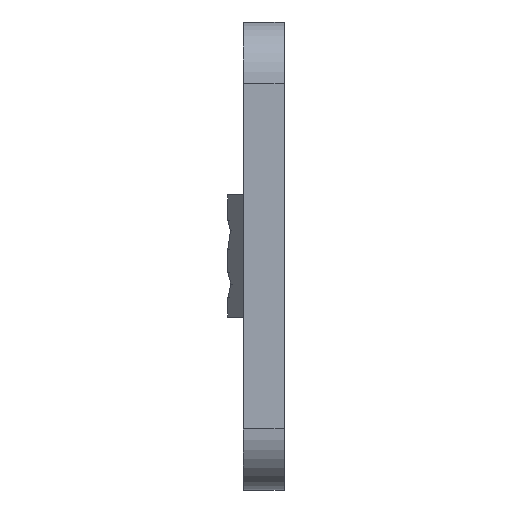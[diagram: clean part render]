
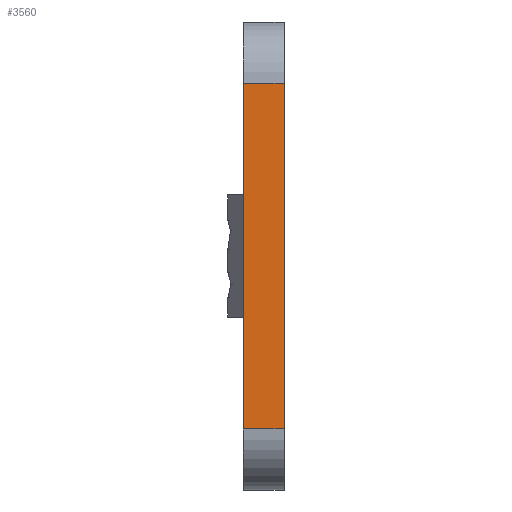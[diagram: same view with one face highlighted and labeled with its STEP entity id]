
A CAD part, left-side view. The second image highlights one B-rep face of the part: STEP entity #3560.
In plain terms, the highlighted planar face has unit normal (-1, 0, 0).
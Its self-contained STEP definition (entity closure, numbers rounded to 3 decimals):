
#446=DIRECTION('',(0.,0.,1.));
#447=VECTOR('',#446,8.5);
#448=CARTESIAN_POINT('',(-35.,0.,-4.25));
#449=LINE('',#448,#447);
#769=DIRECTION('',(0.,0.,1.));
#770=VECTOR('',#769,8.5);
#771=CARTESIAN_POINT('',(-35.,1.,-4.25));
#772=LINE('',#771,#770);
#1449=DIRECTION('',(0.,-1.,0.));
#1450=VECTOR('',#1449,1.);
#1451=CARTESIAN_POINT('',(-35.,1.,-4.25));
#1452=LINE('',#1451,#1450);
#1453=DIRECTION('',(0.,-1.,0.));
#1454=VECTOR('',#1453,1.);
#1455=CARTESIAN_POINT('',(-35.,1.,4.25));
#1456=LINE('',#1455,#1454);
#1793=CARTESIAN_POINT('',(-35.,0.,-4.25));
#1795=VERTEX_POINT('',#1793);
#1799=CARTESIAN_POINT('',(-35.,1.,-4.25));
#1800=VERTEX_POINT('',#1799);
#1802=CARTESIAN_POINT('',(-35.,0.,4.25));
#1804=VERTEX_POINT('',#1802);
#1805=CARTESIAN_POINT('',(-35.,1.,4.25));
#1806=VERTEX_POINT('',#1805);
#3549=CARTESIAN_POINT('',(-35.,0.,-5.75));
#3550=DIRECTION('',(-1.,0.,0.));
#3551=DIRECTION('',(0.,0.,1.));
#3552=AXIS2_PLACEMENT_3D('',#3549,#3550,#3551);
#3553=PLANE('',#3552);
#3554=ORIENTED_EDGE('',*,*,#3466,.F.);
#3555=ORIENTED_EDGE('',*,*,#2153,.T.);
#3556=ORIENTED_EDGE('',*,*,#3542,.T.);
#3557=ORIENTED_EDGE('',*,*,#1832,.F.);
#3558=EDGE_LOOP('',(#3554,#3555,#3556,#3557));
#3559=FACE_OUTER_BOUND('',#3558,.F.);
#1832=EDGE_CURVE('',#1795,#1804,#449,.T.);
#2153=EDGE_CURVE('',#1800,#1806,#772,.T.);
#3466=EDGE_CURVE('',#1800,#1795,#1452,.T.);
#3542=EDGE_CURVE('',#1806,#1804,#1456,.T.);
#3560=ADVANCED_FACE('',(#3559),#3553,.T.);
